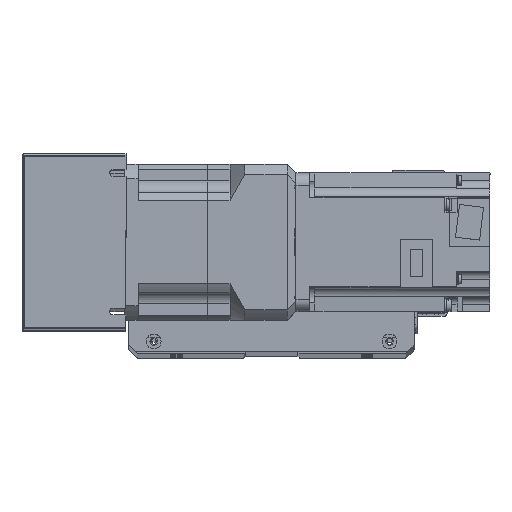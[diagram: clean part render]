
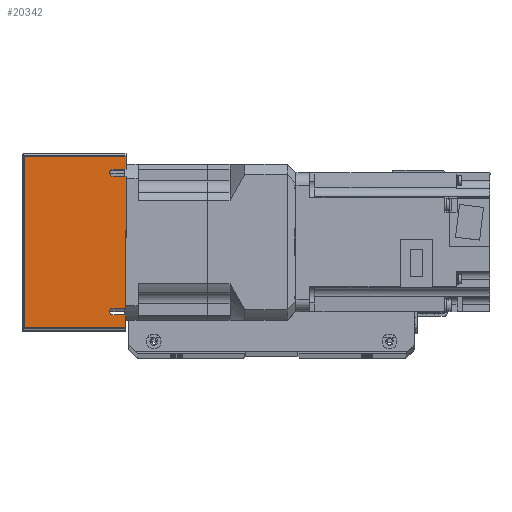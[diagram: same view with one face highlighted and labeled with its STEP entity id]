
A CAD part, top view. The second image highlights one B-rep face of the part: STEP entity #20342.
In plain terms, the highlighted planar face has unit normal (0, 0, 1) as drawn and (-1, 0, 0) by its records, which use the part's own axes.
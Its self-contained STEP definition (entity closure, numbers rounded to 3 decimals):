
#597=PLANE('',#22184);
#1685=LINE('',#32687,#3345);
#1691=LINE('',#32701,#3351);
#1703=LINE('',#32728,#3363);
#1713=LINE('',#32750,#3373);
#1721=LINE('',#32770,#3381);
#1722=LINE('',#32772,#3382);
#1723=LINE('',#32774,#3383);
#1724=LINE('',#32776,#3384);
#1725=LINE('',#32777,#3385);
#1726=LINE('',#32779,#3386);
#3345=VECTOR('',#26472,10.);
#3351=VECTOR('',#26482,10.);
#3363=VECTOR('',#26500,10.);
#3373=VECTOR('',#26514,10.);
#3381=VECTOR('',#26536,10.);
#3382=VECTOR('',#26537,10.);
#3383=VECTOR('',#26538,10.);
#3384=VECTOR('',#26539,10.);
#3385=VECTOR('',#26540,10.);
#3386=VECTOR('',#26543,10.);
#5427=FACE_OUTER_BOUND('',#6915,.T.);
#6915=EDGE_LOOP('',(#16392,#16393,#16394,#16395,#16396,#16397,#16398,#16399,
#16400,#16401,#16402,#16403));
#8375=CIRCLE('',#22179,2.);
#8379=CIRCLE('',#22185,2.);
#9836=VERTEX_POINT('',#32684);
#9837=VERTEX_POINT('',#32686);
#9842=VERTEX_POINT('',#32699);
#9843=VERTEX_POINT('',#32700);
#9854=VERTEX_POINT('',#32726);
#9855=VERTEX_POINT('',#32727);
#9864=VERTEX_POINT('',#32747);
#9865=VERTEX_POINT('',#32749);
#9870=VERTEX_POINT('',#32769);
#9871=VERTEX_POINT('',#32771);
#9872=VERTEX_POINT('',#32773);
#9873=VERTEX_POINT('',#32775);
#12211=EDGE_CURVE('',#9837,#9836,#1685,.T.);
#12217=EDGE_CURVE('',#9842,#9843,#1691,.T.);
#12229=EDGE_CURVE('',#9854,#9855,#1703,.T.);
#12239=EDGE_CURVE('',#9865,#9864,#1713,.T.);
#12241=EDGE_CURVE('',#9843,#9837,#8375,.T.);
#12251=EDGE_CURVE('',#9870,#9836,#1721,.T.);
#12252=EDGE_CURVE('',#9871,#9870,#1722,.T.);
#12253=EDGE_CURVE('',#9872,#9871,#1723,.T.);
#12254=EDGE_CURVE('',#9873,#9872,#1724,.T.);
#12255=EDGE_CURVE('',#9854,#9873,#1725,.T.);
#12256=EDGE_CURVE('',#9855,#9865,#8379,.T.);
#12257=EDGE_CURVE('',#9842,#9864,#1726,.T.);
#16392=ORIENTED_EDGE('',*,*,#12211,.T.);
#16393=ORIENTED_EDGE('',*,*,#12251,.F.);
#16394=ORIENTED_EDGE('',*,*,#12252,.F.);
#16395=ORIENTED_EDGE('',*,*,#12253,.F.);
#16396=ORIENTED_EDGE('',*,*,#12254,.F.);
#16397=ORIENTED_EDGE('',*,*,#12255,.F.);
#16398=ORIENTED_EDGE('',*,*,#12229,.T.);
#16399=ORIENTED_EDGE('',*,*,#12256,.T.);
#16400=ORIENTED_EDGE('',*,*,#12239,.T.);
#16401=ORIENTED_EDGE('',*,*,#12257,.F.);
#16402=ORIENTED_EDGE('',*,*,#12217,.T.);
#16403=ORIENTED_EDGE('',*,*,#12241,.T.);
#20342=ADVANCED_FACE('',(#5427),#597,.T.);
#22179=AXIS2_PLACEMENT_3D('',#32753,#26518,#26519);
#22184=AXIS2_PLACEMENT_3D('',#32768,#26534,#26535);
#22185=AXIS2_PLACEMENT_3D('',#32778,#26541,#26542);
#26472=DIRECTION('',(0.,0.,1.));
#26482=DIRECTION('',(0.,0.,-1.));
#26500=DIRECTION('',(0.,0.,-1.));
#26514=DIRECTION('',(0.,0.,1.));
#26518=DIRECTION('center_axis',(1.,0.,0.));
#26519=DIRECTION('ref_axis',(0.,0.,-1.));
#26534=DIRECTION('center_axis',(-1.,0.,0.));
#26535=DIRECTION('ref_axis',(0.,-1.,0.));
#26536=DIRECTION('',(0.,-1.,0.));
#26537=DIRECTION('',(0.,0.,1.));
#26538=DIRECTION('',(0.,1.,0.));
#26539=DIRECTION('',(0.,0.,-1.));
#26540=DIRECTION('',(0.,-1.,0.));
#26541=DIRECTION('center_axis',(1.,0.,0.));
#26542=DIRECTION('ref_axis',(0.,0.,-1.));
#26543=DIRECTION('',(0.,-1.,0.));
#32684=CARTESIAN_POINT('',(-120.5,42.,30.));
#32686=CARTESIAN_POINT('',(-120.5,42.,22.5));
#32687=CARTESIAN_POINT('',(-120.5,42.,16.304));
#32699=CARTESIAN_POINT('',(-120.5,38.,30.));
#32700=CARTESIAN_POINT('',(-120.5,38.,22.5));
#32701=CARTESIAN_POINT('',(-120.5,38.,11.25));
#32726=CARTESIAN_POINT('',(-120.5,-42.,30.));
#32727=CARTESIAN_POINT('',(-120.5,-42.,22.5));
#32728=CARTESIAN_POINT('',(-120.5,-42.,11.25));
#32747=CARTESIAN_POINT('',(-120.5,-38.,30.));
#32749=CARTESIAN_POINT('',(-120.5,-38.,22.5));
#32750=CARTESIAN_POINT('',(-120.5,-38.,16.169));
#32753=CARTESIAN_POINT('Origin',(-120.5,40.,22.5));
#32768=CARTESIAN_POINT('Origin',(-120.5,51.,0.));
#32769=CARTESIAN_POINT('',(-120.5,50.,30.));
#32770=CARTESIAN_POINT('',(-120.5,-51.,30.));
#32771=CARTESIAN_POINT('',(-120.5,50.,-29.));
#32772=CARTESIAN_POINT('',(-120.5,50.,0.));
#32773=CARTESIAN_POINT('',(-120.5,-50.,-29.));
#32774=CARTESIAN_POINT('',(-120.5,25.5,-29.));
#32775=CARTESIAN_POINT('',(-120.5,-50.,30.));
#32776=CARTESIAN_POINT('',(-120.5,-50.,0.));
#32777=CARTESIAN_POINT('',(-120.5,-51.,30.));
#32778=CARTESIAN_POINT('Origin',(-120.5,-40.,22.5));
#32779=CARTESIAN_POINT('',(-120.5,-51.,30.));
